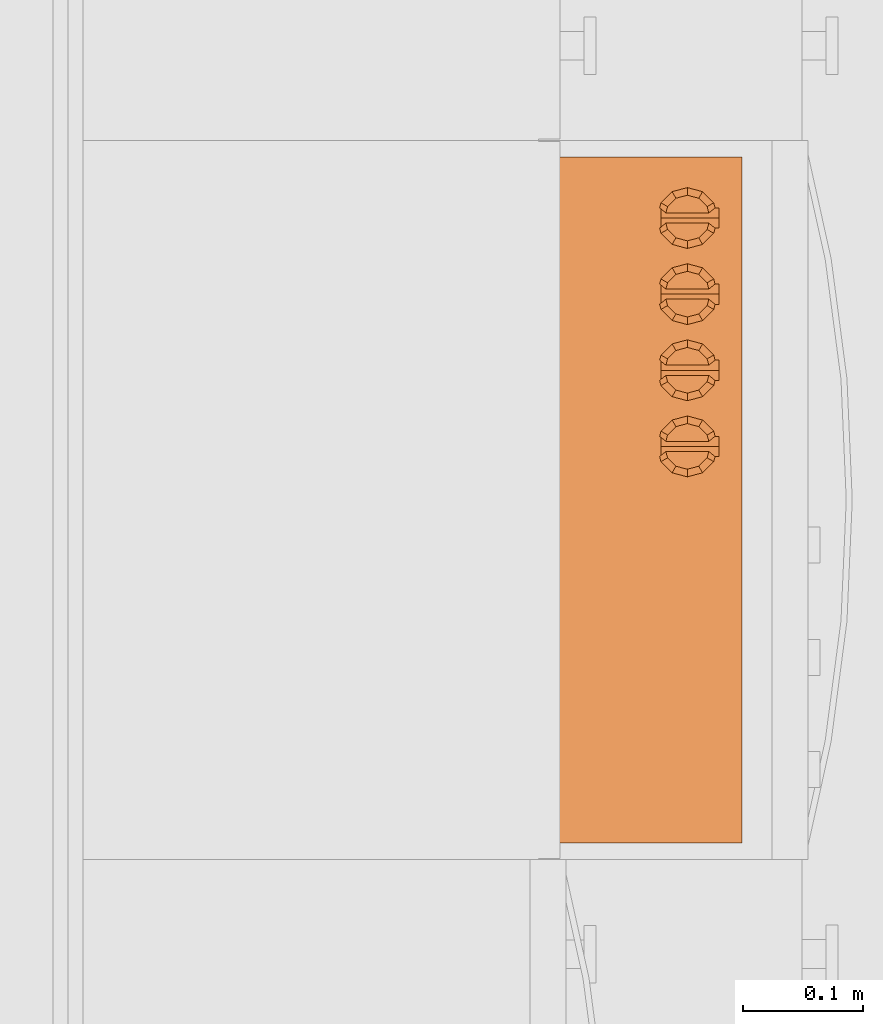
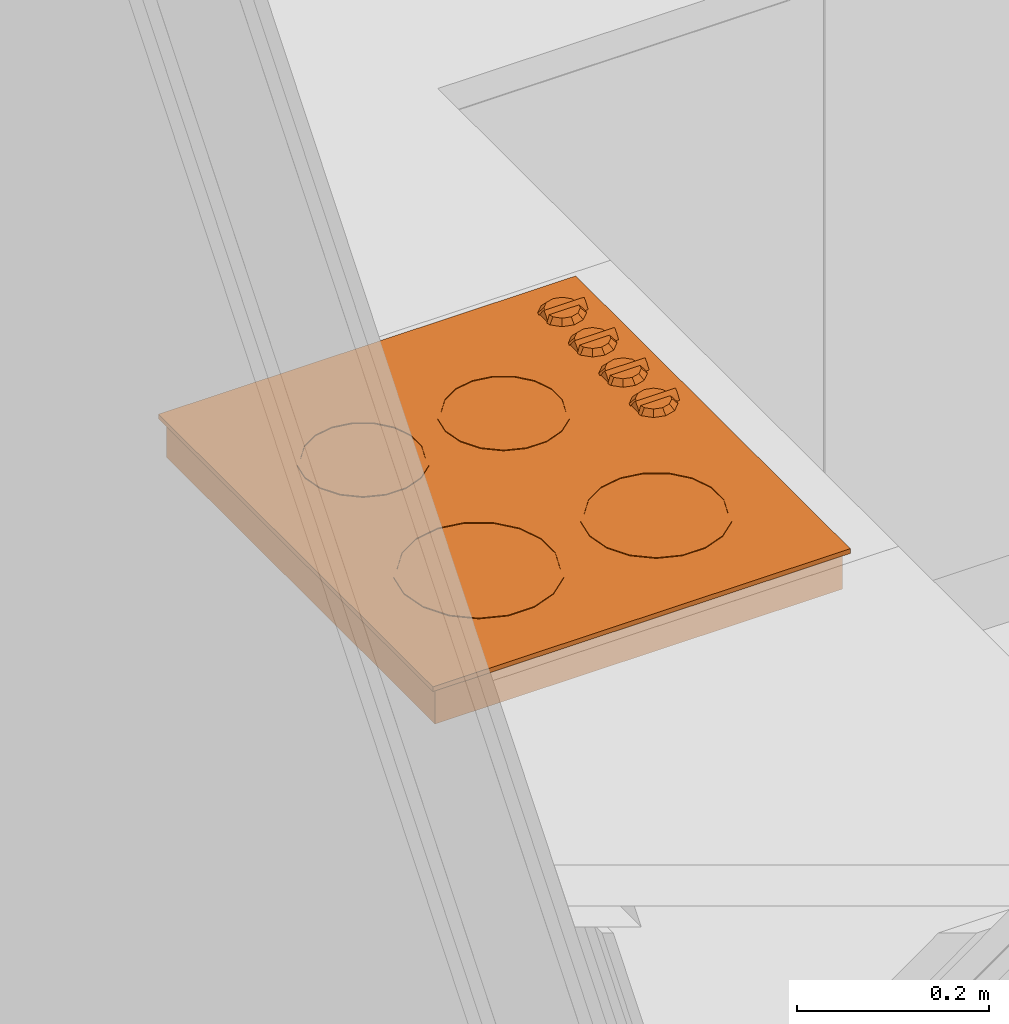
# One storey, part 164 of 165: 1 proxy.
"""IFC2X3 building model written with IfcOpenShell, lengths in millimetres."""

from ifc_helpers import new_model, entity, si_unit, converted_unit, derived_unit, money_unit, direction, frame, origin_with_axes, place, context, subcontext, project, spatial, faceted_brep, type_object, element, save


model = new_model("IFC2X3")

# Units and contexts
model_context = context("Model", 3, precision=0.01, world=origin_with_axes(), true_north=direction((0.0, 1.0)))
body_context = subcontext(model_context, "Body", "Model", "MODEL_VIEW")
ifc_project = project(units=[si_unit("LENGTHUNIT", "METRE", prefix="MILLI"), si_unit("AREAUNIT", "SQUARE_METRE"), si_unit("VOLUMEUNIT", "CUBIC_METRE"), converted_unit("PLANEANGLEUNIT", "DEGREE", entity("IfcPlaneAngleMeasure", 0.0174532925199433), si_unit("PLANEANGLEUNIT", "RADIAN"), dimensions=[0, 0, 0, 0, 0, 0, 0]), money_unit("EUR"), converted_unit("TIMEUNIT", "Year", entity("IfcTimeMeasure", 31556926.0), si_unit("TIMEUNIT", "SECOND"), dimensions=[0, 0, 1, 0, 0, 0, 0]), si_unit("MASSUNIT", "GRAM", prefix="KILO"), si_unit("THERMODYNAMICTEMPERATUREUNIT", "DEGREE_CELSIUS"), si_unit("LUMINOUSINTENSITYUNIT", "LUMEN"), si_unit("ENERGYUNIT", "JOULE", prefix="MEGA"), derived_unit("THERMALCONDUCTANCEUNIT", [(si_unit("POWERUNIT", "WATT"), 1), (si_unit("LENGTHUNIT", "METRE"), -1), (si_unit("THERMODYNAMICTEMPERATUREUNIT", "KELVIN"), -1)]), derived_unit("SPECIFICHEATCAPACITYUNIT", [(si_unit("ENERGYUNIT", "JOULE"), 1), (si_unit("MASSUNIT", "GRAM", prefix="KILO"), -1), (si_unit("THERMODYNAMICTEMPERATUREUNIT", "KELVIN"), -1)]), derived_unit("MASSDENSITYUNIT", [(si_unit("MASSUNIT", "GRAM", prefix="KILO"), 1), (si_unit("VOLUMEUNIT", "CUBIC_METRE"), -1)])], contexts=[model_context])

# Site, building, storey
site_placement = place(None, origin_with_axes())
site = spatial("IfcSite", under=ifc_project, at=site_placement, Name="Site", CompositionType="ELEMENT")
building_placement = place(site_placement, origin_with_axes())
building = spatial("IfcBuilding", under=site, at=building_placement, Name="Naam gebouw", CompositionType="ELEMENT")
storey_placement = place(building_placement, origin_with_axes())
storey = spatial("IfcBuildingStorey", under=building, at=storey_placement, Name="Begane grond", CompositionType="ELEMENT", Elevation=0.0)

# Proxy
building_element_proxy_type = type_object("IfcBuildingElementProxyType", Name="Kookplaat elektrisch 26", PredefinedType="NOTDEFINED")
proxy_placement = place(storey_placement, frame((21450.00167438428, 11558.99881672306, 34.99999999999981), z_axis=(0.0, 0.0, 1.0), x_axis=(0.0, 1.0, 0.0)))
element("IfcBuildingElementProxy", 1, at=proxy_placement, inside=storey, type_object=building_element_proxy_type, Name="_Object-x", context=body_context, shape_type="Brep", body=[
    faceted_brep([(155.0, 224.0, 900.0), (127.6383885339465, 219.1754096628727, 900.0), (127.6383885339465, 219.1754096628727, 907.0), (155.0, 224.0, 907.0), (182.3616114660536, 219.1754096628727, 900.0), (206.4230087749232, 205.2835554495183, 900.0), (224.2820323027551, 184.0, 900.0), (233.7846202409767, 157.8918542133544, 900.0), (233.7846202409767, 130.1081457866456, 900.0), (224.2820323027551, 104.0, 900.0), (206.4230087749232, 82.71644455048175, 900.0), (182.3616114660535, 68.82459033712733, 900.0), (155.0, 63.99999999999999, 900.0), (127.6383885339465, 68.82459033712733, 900.0), (103.5769912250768, 82.71644455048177, 900.0), (85.71796769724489, 104.0, 900.0), (76.21537975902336, 130.1081457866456, 900.0), (76.21537975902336, 157.8918542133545, 900.0), (85.71796769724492, 184.0000000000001, 900.0), (103.5769912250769, 205.2835554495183, 900.0), (230.0, 144.0, 900.0), (225.4769465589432, 169.6515107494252, 900.0), (212.4533332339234, 192.2090707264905, 900.0), (192.5, 208.9519052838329, 900.0), (168.0236133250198, 217.8605814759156, 900.0), (141.9763866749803, 217.8605814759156, 900.0), (117.5, 208.951905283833, 900.0), (97.54666676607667, 192.2090707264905, 900.0), (84.52305344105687, 169.6515107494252, 900.0), (80.0, 144.0000000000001, 900.0), (84.52305344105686, 118.3484892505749, 900.0), (97.54666676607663, 95.79092927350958, 900.0), (117.5, 79.04809471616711, 900.0), (141.9763866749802, 70.13941852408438, 900.0), (168.0236133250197, 70.13941852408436, 900.0), (192.5, 79.04809471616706, 900.0), (212.4533332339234, 95.79092927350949, 900.0), (225.4769465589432, 118.3484892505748, 900.0), (103.5769912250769, 205.2835554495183, 907.0), (85.71796769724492, 184.0000000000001, 907.0), (76.21537975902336, 157.8918542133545, 907.0), (76.21537975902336, 130.1081457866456, 907.0), (85.71796769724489, 104.0, 907.0), (103.5769912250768, 82.71644455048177, 907.0), (127.6383885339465, 68.82459033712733, 907.0), (155.0, 63.99999999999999, 907.0), (182.3616114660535, 68.82459033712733, 907.0), (206.4230087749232, 82.71644455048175, 907.0), (224.2820323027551, 104.0, 907.0), (233.7846202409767, 130.1081457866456, 907.0), (233.7846202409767, 157.8918542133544, 907.0), (224.2820323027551, 184.0, 907.0), (206.4230087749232, 205.2835554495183, 907.0), (182.3616114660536, 219.1754096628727, 907.0), (230.0, 144.0, 907.0), (225.4769465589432, 118.3484892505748, 907.0), (212.4533332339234, 95.79092927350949, 907.0), (192.5, 79.04809471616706, 907.0), (168.0236133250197, 70.13941852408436, 907.0), (141.9763866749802, 70.13941852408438, 907.0), (117.5, 79.04809471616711, 907.0), (97.54666676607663, 95.79092927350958, 907.0), (84.52305344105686, 118.3484892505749, 907.0), (80.0, 144.0000000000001, 907.0), (84.52305344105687, 169.6515107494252, 907.0), (97.54666676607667, 192.2090707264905, 907.0), (117.5, 208.951905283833, 907.0), (141.9763866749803, 217.8605814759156, 907.0), (168.0236133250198, 217.8605814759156, 907.0), (192.5, 208.9519052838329, 907.0), (212.4533332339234, 192.2090707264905, 907.0), (225.4769465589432, 169.6515107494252, 907.0)], [[[0, 1, 2, 3]], [[0, 4, 5, 6, 7, 8, 9, 10, 11, 12, 13, 14, 15, 16, 17, 18, 19, 1], [20, 21, 22, 23, 24, 25, 26, 27, 28, 29, 30, 31, 32, 33, 34, 35, 36, 37]], [[1, 19, 38, 2]], [[3, 2, 38, 39, 40, 41, 42, 43, 44, 45, 46, 47, 48, 49, 50, 51, 52, 53], [54, 55, 56, 57, 58, 59, 60, 61, 62, 63, 64, 65, 66, 67, 68, 69, 70, 71]], [[4, 0, 3, 53]], [[5, 4, 53, 52]], [[6, 5, 52, 51]], [[7, 6, 51, 50]], [[8, 7, 50, 49]], [[9, 8, 49, 48]], [[10, 9, 48, 47]], [[11, 10, 47, 46]], [[12, 11, 46, 45]], [[13, 12, 45, 44]], [[14, 13, 44, 43]], [[15, 14, 43, 42]], [[16, 15, 42, 41]], [[17, 16, 41, 40]], [[18, 17, 40, 39]], [[19, 18, 39, 38]], [[21, 20, 54, 71]], [[22, 21, 71, 70]], [[23, 22, 70, 69]], [[24, 23, 69, 68]], [[25, 24, 68, 67]], [[26, 25, 67, 66]], [[27, 26, 66, 65]], [[28, 27, 65, 64]], [[29, 28, 64, 63]], [[30, 29, 63, 62]], [[31, 30, 62, 61]], [[32, 31, 61, 60]], [[33, 32, 60, 59]], [[34, 33, 59, 58]], [[35, 34, 58, 57]], [[36, 35, 57, 56]], [[37, 36, 56, 55]], [[20, 37, 55, 54]]]),
    faceted_brep([(395.0, 428.0000000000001, 900.0), (371.0585899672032, 423.7784834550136, 900.0), (371.0585899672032, 423.7784834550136, 907.0), (395.0, 428.0000000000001, 907.0), (418.9414100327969, 423.7784834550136, 900.0), (439.9951326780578, 411.6231110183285, 900.0), (455.6217782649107, 393.0, 900.0), (463.9365427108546, 370.1553724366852, 900.0), (463.9365427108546, 345.8446275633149, 900.0), (455.6217782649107, 323.0, 900.0), (439.9951326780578, 304.3768889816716, 900.0), (418.9414100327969, 292.2215165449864, 900.0), (394.9999999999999, 288.0000000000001, 900.0), (371.0585899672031, 292.2215165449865, 900.0), (350.0048673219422, 304.3768889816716, 900.0), (334.3782217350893, 323.0000000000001, 900.0), (326.0634572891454, 345.8446275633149, 900.0), (326.0634572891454, 370.1553724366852, 900.0), (334.3782217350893, 393.0000000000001, 900.0), (350.0048673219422, 411.6231110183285, 900.0), (460.0, 358.0000000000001, 900.0), (456.0800203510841, 380.2313093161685, 900.0), (444.7928888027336, 399.7811946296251, 900.0), (427.5000000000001, 414.2916512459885, 900.0), (406.2871315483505, 422.0125039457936, 900.0), (383.7128684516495, 422.0125039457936, 900.0), (362.5000000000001, 414.2916512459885, 900.0), (345.2071111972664, 399.7811946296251, 900.0), (333.919979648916, 380.2313093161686, 900.0), (330.0, 358.0000000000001, 900.0), (333.919979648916, 335.7686906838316, 900.0), (345.2071111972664, 316.218805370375, 900.0), (362.5, 301.7083487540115, 900.0), (383.7128684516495, 293.9874960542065, 900.0), (406.2871315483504, 293.9874960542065, 900.0), (427.5, 301.7083487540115, 900.0), (444.7928888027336, 316.2188053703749, 900.0), (456.0800203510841, 335.7686906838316, 900.0), (350.0048673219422, 411.6231110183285, 907.0), (334.3782217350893, 393.0000000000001, 907.0), (326.0634572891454, 370.1553724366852, 907.0), (326.0634572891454, 345.8446275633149, 907.0), (334.3782217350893, 323.0000000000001, 907.0), (350.0048673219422, 304.3768889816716, 907.0), (371.0585899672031, 292.2215165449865, 907.0), (394.9999999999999, 288.0000000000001, 907.0), (418.9414100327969, 292.2215165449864, 907.0), (439.9951326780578, 304.3768889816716, 907.0), (455.6217782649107, 323.0, 907.0), (463.9365427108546, 345.8446275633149, 907.0), (463.9365427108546, 370.1553724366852, 907.0), (455.6217782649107, 393.0, 907.0), (439.9951326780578, 411.6231110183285, 907.0), (418.9414100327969, 423.7784834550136, 907.0), (460.0, 358.0000000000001, 907.0), (456.0800203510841, 335.7686906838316, 907.0), (444.7928888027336, 316.2188053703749, 907.0), (427.5, 301.7083487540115, 907.0), (406.2871315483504, 293.9874960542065, 907.0), (383.7128684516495, 293.9874960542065, 907.0), (362.5, 301.7083487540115, 907.0), (345.2071111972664, 316.218805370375, 907.0), (333.919979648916, 335.7686906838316, 907.0), (330.0, 358.0000000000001, 907.0), (333.919979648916, 380.2313093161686, 907.0), (345.2071111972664, 399.7811946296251, 907.0), (362.5000000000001, 414.2916512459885, 907.0), (383.7128684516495, 422.0125039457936, 907.0), (406.2871315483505, 422.0125039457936, 907.0), (427.5000000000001, 414.2916512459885, 907.0), (444.7928888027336, 399.7811946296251, 907.0), (456.0800203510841, 380.2313093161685, 907.0)], [[[0, 1, 2, 3]], [[0, 4, 5, 6, 7, 8, 9, 10, 11, 12, 13, 14, 15, 16, 17, 18, 19, 1], [20, 21, 22, 23, 24, 25, 26, 27, 28, 29, 30, 31, 32, 33, 34, 35, 36, 37]], [[1, 19, 38, 2]], [[3, 2, 38, 39, 40, 41, 42, 43, 44, 45, 46, 47, 48, 49, 50, 51, 52, 53], [54, 55, 56, 57, 58, 59, 60, 61, 62, 63, 64, 65, 66, 67, 68, 69, 70, 71]], [[4, 0, 3, 53]], [[5, 4, 53, 52]], [[6, 5, 52, 51]], [[7, 6, 51, 50]], [[8, 7, 50, 49]], [[9, 8, 49, 48]], [[10, 9, 48, 47]], [[11, 10, 47, 46]], [[12, 11, 46, 45]], [[13, 12, 45, 44]], [[14, 13, 44, 43]], [[15, 14, 43, 42]], [[16, 15, 42, 41]], [[17, 16, 41, 40]], [[18, 17, 40, 39]], [[19, 18, 39, 38]], [[21, 20, 54, 71]], [[22, 21, 71, 70]], [[23, 22, 70, 69]], [[24, 23, 69, 68]], [[25, 24, 68, 67]], [[26, 25, 67, 66]], [[27, 26, 66, 65]], [[28, 27, 65, 64]], [[29, 28, 64, 63]], [[30, 29, 63, 62]], [[31, 30, 62, 61]], [[32, 31, 61, 60]], [[33, 32, 60, 59]], [[34, 33, 59, 58]], [[35, 34, 58, 57]], [[36, 35, 57, 56]], [[37, 36, 56, 55]], [[20, 37, 55, 54]]]),
    faceted_brep([(395.0, 259.0, 900.0), (371.0585899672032, 254.7784834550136, 900.0), (371.0585899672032, 254.7784834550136, 907.0), (395.0, 259.0, 907.0), (418.9414100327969, 254.7784834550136, 900.0), (439.9951326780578, 242.6231110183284, 900.0), (455.6217782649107, 224.0, 900.0), (463.9365427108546, 201.1553724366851, 900.0), (463.9365427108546, 176.8446275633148, 900.0), (455.6217782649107, 154.0, 900.0), (439.9951326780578, 135.3768889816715, 900.0), (418.9414100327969, 123.2215165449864, 900.0), (394.9999999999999, 119.0, 900.0), (371.0585899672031, 123.2215165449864, 900.0), (350.0048673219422, 135.3768889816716, 900.0), (334.3782217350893, 154.0, 900.0), (326.0634572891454, 176.8446275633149, 900.0), (326.0634572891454, 201.1553724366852, 900.0), (334.3782217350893, 224.0, 900.0), (350.0048673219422, 242.6231110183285, 900.0), (460.0, 189.0, 900.0), (456.0800203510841, 211.2313093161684, 900.0), (444.7928888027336, 230.7811946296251, 900.0), (427.5000000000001, 245.2916512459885, 900.0), (406.2871315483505, 253.0125039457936, 900.0), (383.7128684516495, 253.0125039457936, 900.0), (362.5000000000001, 245.2916512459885, 900.0), (345.2071111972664, 230.7811946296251, 900.0), (333.919979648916, 211.2313093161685, 900.0), (330.0, 189.0, 900.0), (333.919979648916, 166.7686906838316, 900.0), (345.2071111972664, 147.218805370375, 900.0), (362.5, 132.7083487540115, 900.0), (383.7128684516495, 124.9874960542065, 900.0), (406.2871315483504, 124.9874960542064, 900.0), (427.5, 132.7083487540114, 900.0), (444.7928888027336, 147.2188053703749, 900.0), (456.0800203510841, 166.7686906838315, 900.0), (350.0048673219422, 242.6231110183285, 907.0), (334.3782217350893, 224.0, 907.0), (326.0634572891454, 201.1553724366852, 907.0), (326.0634572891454, 176.8446275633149, 907.0), (334.3782217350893, 154.0, 907.0), (350.0048673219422, 135.3768889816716, 907.0), (371.0585899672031, 123.2215165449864, 907.0), (394.9999999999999, 119.0, 907.0), (418.9414100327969, 123.2215165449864, 907.0), (439.9951326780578, 135.3768889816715, 907.0), (455.6217782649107, 154.0, 907.0), (463.9365427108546, 176.8446275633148, 907.0), (463.9365427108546, 201.1553724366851, 907.0), (455.6217782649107, 224.0, 907.0), (439.9951326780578, 242.6231110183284, 907.0), (418.9414100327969, 254.7784834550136, 907.0), (460.0, 189.0, 907.0), (456.0800203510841, 166.7686906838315, 907.0), (444.7928888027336, 147.2188053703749, 907.0), (427.5, 132.7083487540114, 907.0), (406.2871315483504, 124.9874960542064, 907.0), (383.7128684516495, 124.9874960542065, 907.0), (362.5, 132.7083487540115, 907.0), (345.2071111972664, 147.218805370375, 907.0), (333.919979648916, 166.7686906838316, 907.0), (330.0, 189.0, 907.0), (333.919979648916, 211.2313093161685, 907.0), (345.2071111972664, 230.7811946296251, 907.0), (362.5000000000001, 245.2916512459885, 907.0), (383.7128684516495, 253.0125039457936, 907.0), (406.2871315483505, 253.0125039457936, 907.0), (427.5000000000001, 245.2916512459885, 907.0), (444.7928888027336, 230.7811946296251, 907.0), (456.0800203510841, 211.2313093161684, 907.0)], [[[0, 1, 2, 3]], [[0, 4, 5, 6, 7, 8, 9, 10, 11, 12, 13, 14, 15, 16, 17, 18, 19, 1], [20, 21, 22, 23, 24, 25, 26, 27, 28, 29, 30, 31, 32, 33, 34, 35, 36, 37]], [[1, 19, 38, 2]], [[3, 2, 38, 39, 40, 41, 42, 43, 44, 45, 46, 47, 48, 49, 50, 51, 52, 53], [54, 55, 56, 57, 58, 59, 60, 61, 62, 63, 64, 65, 66, 67, 68, 69, 70, 71]], [[4, 0, 3, 53]], [[5, 4, 53, 52]], [[6, 5, 52, 51]], [[7, 6, 51, 50]], [[8, 7, 50, 49]], [[9, 8, 49, 48]], [[10, 9, 48, 47]], [[11, 10, 47, 46]], [[12, 11, 46, 45]], [[13, 12, 45, 44]], [[14, 13, 44, 43]], [[15, 14, 43, 42]], [[16, 15, 42, 41]], [[17, 16, 41, 40]], [[18, 17, 40, 39]], [[19, 18, 39, 38]], [[21, 20, 54, 71]], [[22, 21, 71, 70]], [[23, 22, 70, 69]], [[24, 23, 69, 68]], [[25, 24, 68, 67]], [[26, 25, 67, 66]], [[27, 26, 66, 65]], [[28, 27, 65, 64]], [[29, 28, 64, 63]], [[30, 29, 63, 62]], [[31, 30, 62, 61]], [[32, 31, 61, 60]], [[33, 32, 60, 59]], [[34, 33, 59, 58]], [[35, 34, 58, 57]], [[36, 35, 57, 56]], [[37, 36, 56, 55]], [[20, 37, 55, 54]]]),
    faceted_brep([(161.0, 444.0000000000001, 900.0), (130.2181871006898, 438.5723358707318, 900.0), (130.2181871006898, 438.5723358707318, 907.0), (161.0, 444.0000000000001, 907.0), (191.7818128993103, 438.5723358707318, 900.0), (218.8508848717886, 422.9439998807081, 900.0), (238.9422863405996, 399.0, 900.0), (249.6326977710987, 369.6283359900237, 900.0), (249.6326977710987, 338.3716640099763, 900.0), (238.9422863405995, 309.0, 900.0), (218.8508848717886, 285.056000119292, 900.0), (191.7818128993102, 269.4276641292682, 900.0), (160.9999999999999, 264.0, 900.0), (130.2181871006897, 269.4276641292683, 900.0), (103.1491151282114, 285.056000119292, 900.0), (83.05771365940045, 309.0000000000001, 900.0), (72.36730222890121, 338.3716640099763, 900.0), (72.36730222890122, 369.6283359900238, 900.0), (83.05771365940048, 399.0000000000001, 900.0), (103.1491151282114, 422.9439998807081, 900.0), (246.0, 354.0000000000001, 900.0), (240.8738727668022, 383.0717121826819, 900.0), (226.1137776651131, 408.6369468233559, 900.0), (203.5, 427.6121593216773, 900.0), (175.7600951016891, 437.7086590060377, 900.0), (146.2399048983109, 437.7086590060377, 900.0), (118.5, 427.6121593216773, 900.0), (95.88622233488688, 408.6369468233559, 900.0), (81.12612723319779, 383.0717121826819, 900.0), (76.0, 354.0000000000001, 900.0), (81.12612723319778, 324.9282878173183, 900.0), (95.88622233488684, 299.3630531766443, 900.0), (118.5, 280.3878406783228, 900.0), (146.2399048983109, 270.2913409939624, 900.0), (175.760095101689, 270.2913409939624, 900.0), (203.5, 280.3878406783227, 900.0), (226.1137776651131, 299.3630531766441, 900.0), (240.8738727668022, 324.9282878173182, 900.0), (103.1491151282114, 422.9439998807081, 907.0), (83.05771365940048, 399.0000000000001, 907.0), (72.36730222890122, 369.6283359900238, 907.0), (72.36730222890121, 338.3716640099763, 907.0), (83.05771365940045, 309.0000000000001, 907.0), (103.1491151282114, 285.056000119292, 907.0), (130.2181871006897, 269.4276641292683, 907.0), (160.9999999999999, 264.0, 907.0), (191.7818128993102, 269.4276641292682, 907.0), (218.8508848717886, 285.056000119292, 907.0), (238.9422863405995, 309.0, 907.0), (249.6326977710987, 338.3716640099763, 907.0), (249.6326977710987, 369.6283359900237, 907.0), (238.9422863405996, 399.0, 907.0), (218.8508848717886, 422.9439998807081, 907.0), (191.7818128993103, 438.5723358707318, 907.0), (246.0, 354.0000000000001, 907.0), (240.8738727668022, 324.9282878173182, 907.0), (226.1137776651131, 299.3630531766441, 907.0), (203.5, 280.3878406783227, 907.0), (175.760095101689, 270.2913409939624, 907.0), (146.2399048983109, 270.2913409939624, 907.0), (118.5, 280.3878406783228, 907.0), (95.88622233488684, 299.3630531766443, 907.0), (81.12612723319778, 324.9282878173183, 907.0), (76.0, 354.0000000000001, 907.0), (81.12612723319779, 383.0717121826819, 907.0), (95.88622233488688, 408.6369468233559, 907.0), (118.5, 427.6121593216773, 907.0), (146.2399048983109, 437.7086590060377, 907.0), (175.7600951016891, 437.7086590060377, 907.0), (203.5, 427.6121593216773, 907.0), (226.1137776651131, 408.6369468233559, 907.0), (240.8738727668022, 383.0717121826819, 907.0)], [[[0, 1, 2, 3]], [[0, 4, 5, 6, 7, 8, 9, 10, 11, 12, 13, 14, 15, 16, 17, 18, 19, 1], [20, 21, 22, 23, 24, 25, 26, 27, 28, 29, 30, 31, 32, 33, 34, 35, 36, 37]], [[1, 19, 38, 2]], [[3, 2, 38, 39, 40, 41, 42, 43, 44, 45, 46, 47, 48, 49, 50, 51, 52, 53], [54, 55, 56, 57, 58, 59, 60, 61, 62, 63, 64, 65, 66, 67, 68, 69, 70, 71]], [[4, 0, 3, 53]], [[5, 4, 53, 52]], [[6, 5, 52, 51]], [[7, 6, 51, 50]], [[8, 7, 50, 49]], [[9, 8, 49, 48]], [[10, 9, 48, 47]], [[11, 10, 47, 46]], [[12, 11, 46, 45]], [[13, 12, 45, 44]], [[14, 13, 44, 43]], [[15, 14, 43, 42]], [[16, 15, 42, 41]], [[17, 16, 41, 40]], [[18, 17, 40, 39]], [[19, 18, 39, 38]], [[21, 20, 54, 71]], [[22, 21, 71, 70]], [[23, 22, 70, 69]], [[24, 23, 69, 68]], [[25, 24, 68, 67]], [[26, 25, 67, 66]], [[27, 26, 66, 65]], [[28, 27, 65, 64]], [[29, 28, 64, 63]], [[30, 29, 63, 62]], [[31, 30, 62, 61]], [[32, 31, 61, 60]], [[33, 32, 60, 59]], [[34, 33, 59, 58]], [[35, 34, 58, 57]], [[36, 35, 57, 56]], [[37, 36, 56, 55]], [[20, 37, 55, 54]]]),
    faceted_brep([(572.0000000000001, 502.0, 900.0), (0.0, 502.0, 900.0), (0.0, 502.0, 906.0), (572.0000000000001, 502.0, 906.0), (572.0000000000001, 0.0, 900.0), (0.0, 0.0, 900.0), (0.0, 0.0, 906.0), (572.0000000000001, 0.0, 906.0)], [[[0, 1, 2, 3]], [[0, 4, 5, 1]], [[1, 5, 6, 2]], [[3, 2, 6, 7]], [[4, 0, 3, 7]], [[5, 4, 7, 6]]]),
    faceted_brep([(566.0000000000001, 496.0, 853.0), (6.0, 496.0, 853.0), (6.0, 496.0, 900.0), (566.0000000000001, 496.0, 900.0), (566.0000000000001, 6.0, 853.0), (6.0, 6.0, 853.0), (6.0, 6.0, 900.0), (566.0000000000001, 6.0, 900.0)], [[[0, 1, 2, 3]], [[0, 4, 5, 1]], [[1, 5, 6, 2]], [[3, 2, 6, 7]], [[4, 0, 3, 7]], [[5, 4, 7, 6]]]),
    faceted_brep([(516.9666666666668, 27.80431824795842, 912.35), (516.9666666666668, 63.63568175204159, 912.35), (511.6750000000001, 62.21778394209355, 912.35), (504.7022160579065, 55.245, 912.35), (502.1500000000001, 45.72000000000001, 912.35), (504.7022160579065, 36.19500000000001, 912.35), (511.6750000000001, 29.22221605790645, 912.35), (512.7333333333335, 68.85136350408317, 906.0), (512.7333333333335, 22.58863649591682, 906.0), (508.5000000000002, 67.71704525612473, 906.0), (499.2029547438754, 58.42000000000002, 906.0), (495.8000000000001, 45.72000000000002, 906.0), (499.2029547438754, 33.02000000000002, 906.0), (508.5000000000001, 23.72295474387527, 906.0)], [[[0, 1, 2, 3, 4, 5, 6]], [[7, 1, 0, 8]], [[1, 7, 9, 2]], [[10, 3, 2, 9]], [[11, 4, 3, 10]], [[12, 5, 4, 11]], [[13, 6, 5, 12]], [[8, 0, 6, 13]], [[7, 8, 13, 12, 11, 10, 9]]]),
    faceted_brep([(529.6666666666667, 22.58863649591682, 906.0), (529.6666666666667, 68.8513635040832, 906.0), (533.9000000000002, 67.71704525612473, 906.0), (543.1970452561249, 58.41999999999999, 906.0), (546.6000000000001, 45.71999999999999, 906.0), (543.1970452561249, 33.02, 906.0), (533.9000000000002, 23.72295474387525, 906.0), (525.4333333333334, 63.63568175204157, 912.35), (525.4333333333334, 27.80431824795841, 912.35), (530.7250000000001, 62.21778394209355, 912.35), (537.6977839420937, 55.24499999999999, 912.35), (540.2500000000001, 45.71999999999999, 912.35), (537.6977839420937, 36.195, 912.35), (530.7250000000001, 29.22221605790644, 912.35)], [[[0, 1, 2, 3, 4, 5, 6]], [[7, 1, 0, 8]], [[1, 7, 9, 2]], [[2, 9, 10, 3]], [[3, 10, 11, 4]], [[4, 11, 12, 5]], [[5, 12, 13, 6]], [[8, 0, 6, 13]], [[7, 8, 13, 12, 11, 10, 9]]]),
    faceted_brep([(529.6666666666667, 19.26166666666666, 906.0), (512.7333333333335, 19.26166666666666, 906.0), (512.7333333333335, 67.52166666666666, 906.0), (529.6666666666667, 67.52166666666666, 906.0), (525.4333333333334, 19.26166666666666, 912.35), (521.2000000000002, 19.26166666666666, 916.5833333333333), (516.9666666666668, 19.26166666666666, 912.35), (516.9666666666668, 67.52166666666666, 912.35), (521.2000000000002, 67.52166666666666, 916.5833333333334), (525.4333333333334, 67.52166666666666, 912.35)], [[[0, 1, 2, 3]], [[0, 4, 5, 6, 1]], [[1, 6, 7, 2]], [[3, 2, 7, 8, 9]], [[4, 0, 3, 9]], [[5, 4, 9, 8]], [[6, 5, 8, 7]]]),
    faceted_brep([(453.4666666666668, 27.80431824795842, 912.35), (453.4666666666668, 63.63568175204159, 912.35), (448.1750000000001, 62.21778394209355, 912.35), (441.2022160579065, 55.245, 912.35), (438.6500000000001, 45.72000000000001, 912.35), (441.2022160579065, 36.19500000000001, 912.35), (448.1750000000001, 29.22221605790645, 912.35), (449.2333333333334, 68.85136350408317, 906.0), (449.2333333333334, 22.58863649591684, 906.0), (445.0000000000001, 67.71704525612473, 906.0), (435.7029547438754, 58.42000000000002, 906.0), (432.3000000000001, 45.72000000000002, 906.0), (435.7029547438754, 33.02000000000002, 906.0), (445.0000000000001, 23.72295474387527, 906.0)], [[[0, 1, 2, 3, 4, 5, 6]], [[7, 1, 0, 8]], [[1, 7, 9, 2]], [[10, 3, 2, 9]], [[11, 4, 3, 10]], [[12, 5, 4, 11]], [[13, 6, 5, 12]], [[8, 0, 6, 13]], [[7, 8, 13, 12, 11, 10, 9]]]),
    faceted_brep([(466.1666666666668, 22.58863649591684, 906.0), (466.1666666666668, 68.85136350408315, 906.0), (470.4000000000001, 67.71704525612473, 906.0), (479.6970452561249, 58.41999999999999, 906.0), (483.1000000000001, 45.71999999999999, 906.0), (479.6970452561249, 33.02, 906.0), (470.4000000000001, 23.72295474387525, 906.0), (461.9333333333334, 63.63568175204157, 912.35), (461.9333333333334, 27.80431824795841, 912.35), (467.2250000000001, 62.21778394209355, 912.35), (474.1977839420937, 55.24499999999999, 912.35), (476.7500000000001, 45.71999999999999, 912.35), (474.1977839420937, 36.195, 912.35), (467.2250000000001, 29.22221605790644, 912.35)], [[[0, 1, 2, 3, 4, 5, 6]], [[7, 1, 0, 8]], [[1, 7, 9, 2]], [[2, 9, 10, 3]], [[3, 10, 11, 4]], [[4, 11, 12, 5]], [[5, 12, 13, 6]], [[8, 0, 6, 13]], [[7, 8, 13, 12, 11, 10, 9]]]),
    faceted_brep([(466.1666666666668, 19.26166666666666, 906.0), (449.2333333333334, 19.26166666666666, 906.0), (449.2333333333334, 67.52166666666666, 906.0), (466.1666666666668, 67.52166666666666, 906.0), (461.9333333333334, 19.26166666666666, 912.35), (457.7000000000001, 19.26166666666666, 916.5833333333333), (453.4666666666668, 19.26166666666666, 912.35), (453.4666666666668, 67.52166666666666, 912.35), (457.7000000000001, 67.52166666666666, 916.5833333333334), (461.9333333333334, 67.52166666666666, 912.35)], [[[0, 1, 2, 3]], [[0, 4, 5, 6, 1]], [[1, 6, 7, 2]], [[3, 2, 7, 8, 9]], [[4, 0, 3, 9]], [[5, 4, 9, 8]], [[6, 5, 8, 7]]]),
    faceted_brep([(389.9666666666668, 27.80431824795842, 912.35), (389.9666666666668, 63.63568175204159, 912.35), (384.6750000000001, 62.21778394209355, 912.35), (377.7022160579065, 55.245, 912.35), (375.1500000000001, 45.72000000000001, 912.35), (377.7022160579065, 36.19500000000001, 912.35), (384.6750000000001, 29.22221605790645, 912.35), (385.7333333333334, 68.85136350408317, 906.0), (385.7333333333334, 22.58863649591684, 906.0), (381.5000000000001, 67.71704525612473, 906.0), (372.2029547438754, 58.42000000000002, 906.0), (368.8000000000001, 45.72000000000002, 906.0), (372.2029547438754, 33.02000000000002, 906.0), (381.5000000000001, 23.72295474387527, 906.0)], [[[0, 1, 2, 3, 4, 5, 6]], [[7, 1, 0, 8]], [[1, 7, 9, 2]], [[10, 3, 2, 9]], [[11, 4, 3, 10]], [[12, 5, 4, 11]], [[13, 6, 5, 12]], [[8, 0, 6, 13]], [[7, 8, 13, 12, 11, 10, 9]]]),
    faceted_brep([(402.6666666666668, 22.58863649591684, 906.0), (402.6666666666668, 68.85136350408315, 906.0), (406.9000000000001, 67.71704525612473, 906.0), (416.1970452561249, 58.41999999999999, 906.0), (419.6000000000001, 45.71999999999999, 906.0), (416.1970452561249, 33.02, 906.0), (406.9000000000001, 23.72295474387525, 906.0), (398.4333333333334, 63.63568175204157, 912.35), (398.4333333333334, 27.80431824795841, 912.35), (403.7250000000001, 62.21778394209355, 912.35), (410.6977839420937, 55.24499999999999, 912.35), (413.2500000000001, 45.71999999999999, 912.35), (410.6977839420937, 36.195, 912.35), (403.7250000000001, 29.22221605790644, 912.35)], [[[0, 1, 2, 3, 4, 5, 6]], [[7, 1, 0, 8]], [[1, 7, 9, 2]], [[2, 9, 10, 3]], [[3, 10, 11, 4]], [[4, 11, 12, 5]], [[5, 12, 13, 6]], [[8, 0, 6, 13]], [[7, 8, 13, 12, 11, 10, 9]]]),
    faceted_brep([(402.6666666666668, 19.26166666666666, 906.0), (385.7333333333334, 19.26166666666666, 906.0), (385.7333333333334, 67.52166666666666, 906.0), (402.6666666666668, 67.52166666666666, 906.0), (398.4333333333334, 19.26166666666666, 912.35), (394.2000000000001, 19.26166666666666, 916.5833333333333), (389.9666666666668, 19.26166666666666, 912.35), (389.9666666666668, 67.52166666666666, 912.35), (394.2000000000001, 67.52166666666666, 916.5833333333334), (398.4333333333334, 67.52166666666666, 912.35)], [[[0, 1, 2, 3]], [[0, 4, 5, 6, 1]], [[1, 6, 7, 2]], [[3, 2, 7, 8, 9]], [[4, 0, 3, 9]], [[5, 4, 9, 8]], [[6, 5, 8, 7]]]),
    faceted_brep([(326.4666666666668, 27.80431824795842, 912.35), (326.4666666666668, 63.63568175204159, 912.35), (321.1750000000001, 62.21778394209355, 912.35), (314.2022160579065, 55.245, 912.35), (311.6500000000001, 45.72000000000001, 912.35), (314.2022160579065, 36.19500000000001, 912.35), (321.1750000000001, 29.22221605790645, 912.35), (322.2333333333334, 68.85136350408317, 906.0), (322.2333333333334, 22.58863649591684, 906.0), (318.0000000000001, 67.71704525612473, 906.0), (308.7029547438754, 58.42000000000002, 906.0), (305.3000000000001, 45.72000000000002, 906.0), (308.7029547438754, 33.02000000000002, 906.0), (318.0000000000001, 23.72295474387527, 906.0)], [[[0, 1, 2, 3, 4, 5, 6]], [[7, 1, 0, 8]], [[1, 7, 9, 2]], [[10, 3, 2, 9]], [[11, 4, 3, 10]], [[12, 5, 4, 11]], [[13, 6, 5, 12]], [[8, 0, 6, 13]], [[7, 8, 13, 12, 11, 10, 9]]]),
    faceted_brep([(339.1666666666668, 22.58863649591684, 906.0), (339.1666666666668, 68.85136350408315, 906.0), (343.4000000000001, 67.71704525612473, 906.0), (352.6970452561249, 58.41999999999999, 906.0), (356.1000000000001, 45.71999999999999, 906.0), (352.6970452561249, 33.02, 906.0), (343.4000000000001, 23.72295474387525, 906.0), (334.9333333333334, 63.63568175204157, 912.35), (334.9333333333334, 27.80431824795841, 912.35), (340.2250000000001, 62.21778394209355, 912.35), (347.1977839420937, 55.24499999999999, 912.35), (349.7500000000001, 45.71999999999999, 912.35), (347.1977839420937, 36.195, 912.35), (340.2250000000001, 29.22221605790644, 912.35)], [[[0, 1, 2, 3, 4, 5, 6]], [[7, 1, 0, 8]], [[1, 7, 9, 2]], [[2, 9, 10, 3]], [[3, 10, 11, 4]], [[4, 11, 12, 5]], [[5, 12, 13, 6]], [[8, 0, 6, 13]], [[7, 8, 13, 12, 11, 10, 9]]]),
    faceted_brep([(339.1666666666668, 19.26166666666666, 906.0), (322.2333333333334, 19.26166666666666, 906.0), (322.2333333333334, 67.52166666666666, 906.0), (339.1666666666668, 67.52166666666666, 906.0), (334.9333333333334, 19.26166666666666, 912.35), (330.7000000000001, 19.26166666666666, 916.5833333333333), (326.4666666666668, 19.26166666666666, 912.35), (326.4666666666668, 67.52166666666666, 912.35), (330.7000000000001, 67.52166666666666, 916.5833333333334), (334.9333333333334, 67.52166666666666, 912.35)], [[[0, 1, 2, 3]], [[0, 4, 5, 6, 1]], [[1, 6, 7, 2]], [[3, 2, 7, 8, 9]], [[4, 0, 3, 9]], [[5, 4, 9, 8]], [[6, 5, 8, 7]]]),
])

save(model, "model.ifc")
